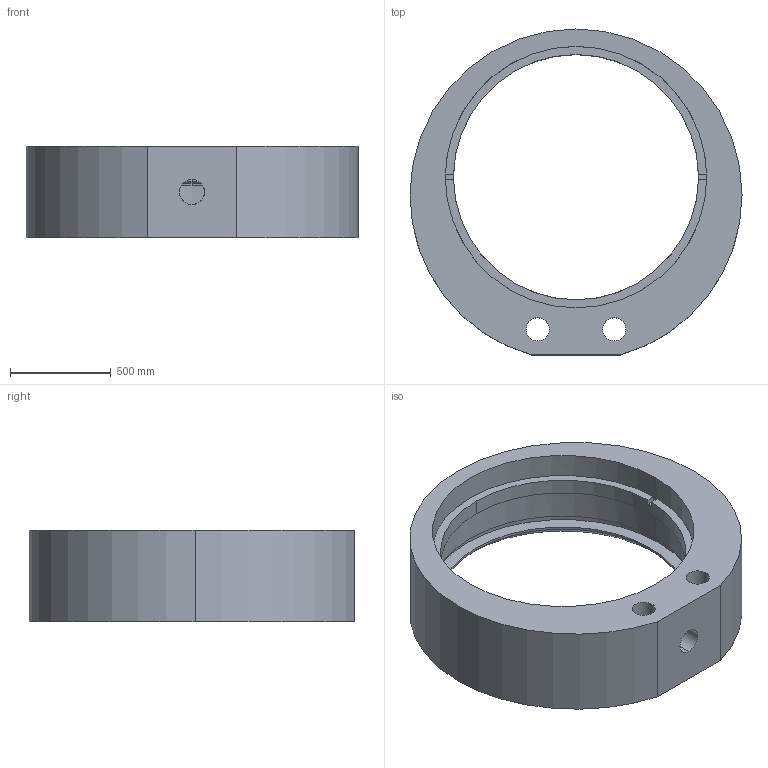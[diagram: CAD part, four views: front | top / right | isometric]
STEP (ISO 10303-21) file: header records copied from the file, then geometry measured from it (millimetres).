
FILE_DESCRIPTION (( 'STEP AP203' ), '1' );
FILE_NAME ('4OCM-50.STEP', '2010-04-30T06:58:55', ( 'Darius' ), ( '' ), 'SwSTEP 2.0', 'SolidWorks 2003240', '' );
FILE_SCHEMA (( 'CONFIG_CONTROL_DESIGN' ));
Length unit declared in the file: inch
Products named in the file (1): 4OCM-50
Bounding box: 1651 x 1620.52 x 457.2 mm (x, y, z)
Volume: 368967216 mm3; surface area: 7031332.2 mm2
Topology: 1 solids, 1 shells, 42 faces, 107 edges, 70 vertices
Faces by surface type: cylinder 23, plane 15, cone 4
Entity records: 1525 total; most frequent: CARTESIAN_POINT 368, DIRECTION 242, ORIENTED_EDGE 214, EDGE_CURVE 107, AXIS2_PLACEMENT_3D 98, VERTEX_POINT 70, CIRCLE 55, EDGE_LOOP 53
